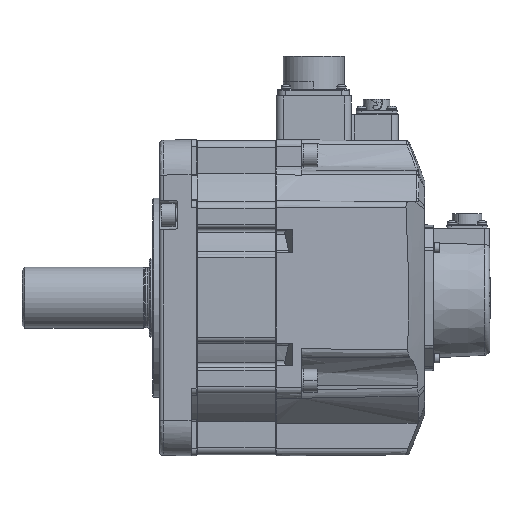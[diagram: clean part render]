
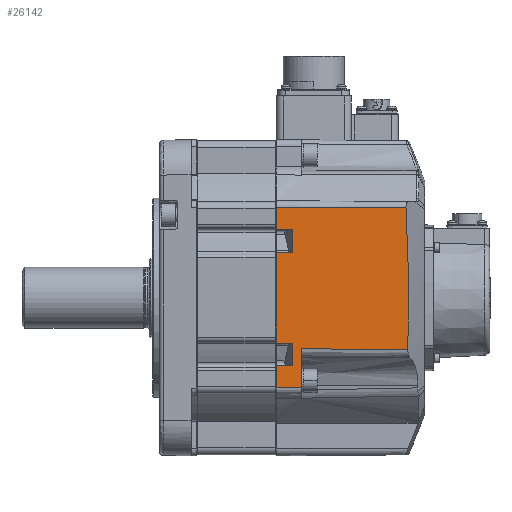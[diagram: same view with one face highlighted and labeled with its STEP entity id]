
A CAD part, left-side view. The second image highlights one B-rep face of the part: STEP entity #26142.
In plain terms, the highlighted planar face has unit normal (-1, -0.009, 0).
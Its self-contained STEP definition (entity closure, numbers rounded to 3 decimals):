
#1420=DIRECTION('',(0.,0.,-1.));
#1421=VECTOR('',#1420,12.75);
#1422=CARTESIAN_POINT('',(-90.746,-40.3,51.75));
#1423=LINE('',#1422,#1421);
#1424=DIRECTION('',(0.,0.,-1.));
#1425=VECTOR('',#1424,52.);
#1426=CARTESIAN_POINT('',(-90.746,-40.3,26.));
#1427=LINE('',#1426,#1425);
#1428=DIRECTION('',(0.,0.,-1.));
#1429=VECTOR('',#1428,12.75);
#1430=CARTESIAN_POINT('',(-90.746,-40.3,-39.));
#1431=LINE('',#1430,#1429);
#3372=DIRECTION('',(0.,0.,1.));
#3373=VECTOR('',#3372,22.417);
#3374=CARTESIAN_POINT('',(-90.619,-54.8,-51.75));
#3375=LINE('',#3374,#3373);
#3470=DIRECTION('',(0.009,-1.,0.));
#3471=VECTOR('',#3470,14.501);
#3472=CARTESIAN_POINT('',(-90.746,-40.3,-51.75));
#3473=LINE('',#3472,#3471);
#3483=DIRECTION('',(0.009,-1.,0.));
#3484=VECTOR('',#3483,9.5);
#3485=CARTESIAN_POINT('',(-90.746,-40.3,-39.));
#3486=LINE('',#3485,#3484);
#3487=DIRECTION('',(0.,0.,-1.));
#3488=VECTOR('',#3487,13.);
#3489=CARTESIAN_POINT('',(-90.663,-49.8,-26.));
#3490=LINE('',#3489,#3488);
#3491=DIRECTION('',(0.009,-1.,0.));
#3492=VECTOR('',#3491,9.5);
#3493=CARTESIAN_POINT('',(-90.746,-40.3,-26.));
#3494=LINE('',#3493,#3492);
#3495=DIRECTION('',(0.009,-1.,0.));
#3496=VECTOR('',#3495,9.5);
#3497=CARTESIAN_POINT('',(-90.746,-40.3,26.));
#3498=LINE('',#3497,#3496);
#3499=DIRECTION('',(0.,0.,-1.));
#3500=VECTOR('',#3499,13.);
#3501=CARTESIAN_POINT('',(-90.663,-49.8,39.));
#3502=LINE('',#3501,#3500);
#3503=DIRECTION('',(0.009,-1.,0.));
#3504=VECTOR('',#3503,9.5);
#3505=CARTESIAN_POINT('',(-90.746,-40.3,39.));
#3506=LINE('',#3505,#3504);
#3507=CARTESIAN_POINT('',(-90.086,-115.866,
-29.502));
#3508=CARTESIAN_POINT('',(-90.086,-115.914,
-28.147));
#3509=CARTESIAN_POINT('',(-90.085,-116.002,
-25.438));
#3510=CARTESIAN_POINT('',(-90.084,-116.114,
-21.376));
#3511=CARTESIAN_POINT('',(-90.083,-116.208,
-17.316));
#3512=CARTESIAN_POINT('',(-90.083,-116.282,
-13.256));
#3513=CARTESIAN_POINT('',(-90.082,-116.336,
-9.197));
#3514=CARTESIAN_POINT('',(-90.082,-116.371,
-5.137));
#3515=CARTESIAN_POINT('',(-90.082,-116.386,
-1.076));
#3516=CARTESIAN_POINT('',(-90.082,-116.381,
2.985));
#3517=CARTESIAN_POINT('',(-90.082,-116.357,
7.045));
#3518=CARTESIAN_POINT('',(-90.082,-116.313,
11.106));
#3519=CARTESIAN_POINT('',(-90.083,-116.249,
15.165));
#3520=CARTESIAN_POINT('',(-90.084,-116.166,
19.225));
#3521=CARTESIAN_POINT('',(-90.084,-116.064,
23.286));
#3522=CARTESIAN_POINT('',(-90.086,-115.942,
27.349));
#3523=CARTESIAN_POINT('',(-90.087,-115.801,
31.412));
#3524=CARTESIAN_POINT('',(-90.088,-115.64,
35.477));
#3525=CARTESIAN_POINT('',(-90.09,-115.461,
39.542));
#3526=CARTESIAN_POINT('',(-90.091,-115.262,
43.61));
#3527=CARTESIAN_POINT('',(-90.093,-115.045,
47.679));
#3528=CARTESIAN_POINT('',(-90.095,-114.887,
50.393));
#3529=CARTESIAN_POINT('',(-90.095,-114.805,51.75));
#3531=CARTESIAN_POINT('',(-90.619,-54.8,-29.333));
#3532=CARTESIAN_POINT('',(-90.56,-61.621,
-29.351));
#3533=CARTESIAN_POINT('',(-90.441,-75.239,
-29.388));
#3534=CARTESIAN_POINT('',(-90.263,-95.596,
-29.445));
#3535=CARTESIAN_POINT('',(-90.145,-109.117,
-29.483));
#3536=CARTESIAN_POINT('',(-90.086,-115.866,
-29.502));
#3699=CARTESIAN_POINT('',(-90.095,-114.805,51.75));
#3737=DIRECTION('',(-0.009,1.,0.));
#3738=VECTOR('',#3737,74.508);
#3739=CARTESIAN_POINT('',(-90.095,-114.805,51.75));
#3740=LINE('',#3739,#3738);
#20459=CARTESIAN_POINT('',(-90.663,-49.8,-26.));
#20460=VERTEX_POINT('',#20459);
#20461=CARTESIAN_POINT('',(-90.663,-49.8,26.));
#20462=VERTEX_POINT('',#20461);
#20463=CARTESIAN_POINT('',(-90.663,-49.8,-39.));
#20464=VERTEX_POINT('',#20463);
#20465=CARTESIAN_POINT('',(-90.663,-49.8,39.));
#20466=VERTEX_POINT('',#20465);
#20483=CARTESIAN_POINT('',(-90.746,-40.3,-39.));
#20484=VERTEX_POINT('',#20483);
#20485=CARTESIAN_POINT('',(-90.746,-40.3,-26.));
#20486=VERTEX_POINT('',#20485);
#20487=CARTESIAN_POINT('',(-90.746,-40.3,39.));
#20488=VERTEX_POINT('',#20487);
#20489=CARTESIAN_POINT('',(-90.746,-40.3,26.));
#20490=VERTEX_POINT('',#20489);
#20697=VERTEX_POINT('',#3699);
#20725=CARTESIAN_POINT('',(-90.746,-40.3,-51.75));
#20727=VERTEX_POINT('',#20725);
#20730=CARTESIAN_POINT('',(-90.746,-40.3,51.75));
#20732=VERTEX_POINT('',#20730);
#20759=CARTESIAN_POINT('',(-90.619,-54.8,-51.75));
#20761=VERTEX_POINT('',#20759);
#20786=VERTEX_POINT('',#3507);
#20859=VERTEX_POINT('',#3531);
#26113=CARTESIAN_POINT('',(-90.75,-39.8,-60.786));
#26114=DIRECTION('',(-1.,-0.009,0.));
#26115=DIRECTION('',(0.,0.,1.));
#26116=AXIS2_PLACEMENT_3D('',#26113,#26114,#26115);
#26117=PLANE('',#26116);
#26118=ORIENTED_EDGE('',*,*,#26042,.F.);
#26119=ORIENTED_EDGE('',*,*,#26106,.F.);
#26120=ORIENTED_EDGE('',*,*,#24240,.F.);
#26122=ORIENTED_EDGE('',*,*,#26121,.T.);
#26124=ORIENTED_EDGE('',*,*,#26123,.F.);
#26126=ORIENTED_EDGE('',*,*,#26125,.F.);
#26127=ORIENTED_EDGE('',*,*,#24228,.F.);
#26129=ORIENTED_EDGE('',*,*,#26128,.T.);
#26131=ORIENTED_EDGE('',*,*,#26130,.F.);
#26133=ORIENTED_EDGE('',*,*,#26132,.F.);
#26134=ORIENTED_EDGE('',*,*,#24216,.F.);
#26136=ORIENTED_EDGE('',*,*,#26135,.F.);
#26137=ORIENTED_EDGE('',*,*,#25977,.F.);
#26139=ORIENTED_EDGE('',*,*,#26138,.F.);
#26140=EDGE_LOOP('',(#26118,#26119,#26120,#26122,#26124,#26126,#26127,#26129,
#26131,#26133,#26134,#26136,#26137,#26139));
#26141=FACE_OUTER_BOUND('',#26140,.F.);
#26142=ADVANCED_FACE('',(#26141),#26117,.T.);
#3530=B_SPLINE_CURVE_WITH_KNOTS('',3,(#3507,#3508,#3509,#3510,#3511,#3512,#3513,
#3514,#3515,#3516,#3517,#3518,#3519,#3520,#3521,#3522,#3523,#3524,#3525,#3526,
#3527,#3528,#3529),.UNSPECIFIED.,.F.,.F.,(4,1,1,1,1,1,1,1,1,1,1,1,1,1,1,1,1,1,1,
1,4),(0.,0.05,0.1,0.15,0.2,0.25,0.3,0.35,0.4,0.45,0.5,
0.55,0.6,0.65,0.7,0.75,0.8,0.85,0.9,0.95,1.),.UNSPECIFIED.);
#3537=B_SPLINE_CURVE_WITH_KNOTS('',3,(#3531,#3532,#3533,#3534,#3535,#3536),
.UNSPECIFIED.,.F.,.F.,(4,1,1,4),(0.,0.333,0.667,1.),
.UNSPECIFIED.);
#24216=EDGE_CURVE('',#20732,#20488,#1423,.T.);
#24228=EDGE_CURVE('',#20490,#20486,#1427,.T.);
#24240=EDGE_CURVE('',#20484,#20727,#1431,.T.);
#25977=EDGE_CURVE('',#20786,#20697,#3530,.T.);
#26042=EDGE_CURVE('',#20761,#20859,#3375,.T.);
#26106=EDGE_CURVE('',#20727,#20761,#3473,.T.);
#26121=EDGE_CURVE('',#20484,#20464,#3486,.T.);
#26123=EDGE_CURVE('',#20460,#20464,#3490,.T.);
#26125=EDGE_CURVE('',#20486,#20460,#3494,.T.);
#26128=EDGE_CURVE('',#20490,#20462,#3498,.T.);
#26130=EDGE_CURVE('',#20466,#20462,#3502,.T.);
#26132=EDGE_CURVE('',#20488,#20466,#3506,.T.);
#26135=EDGE_CURVE('',#20697,#20732,#3740,.T.);
#26138=EDGE_CURVE('',#20859,#20786,#3537,.T.);
